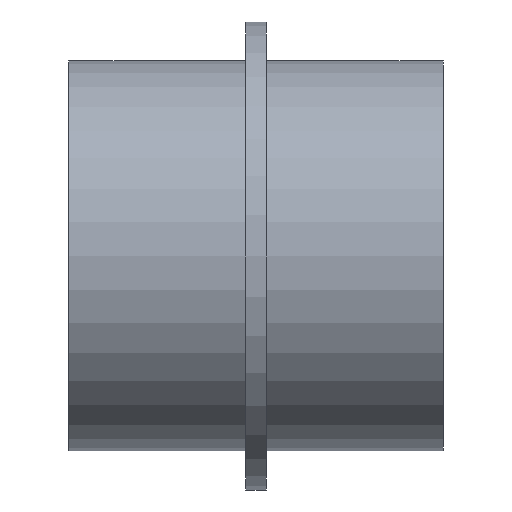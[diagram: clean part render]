
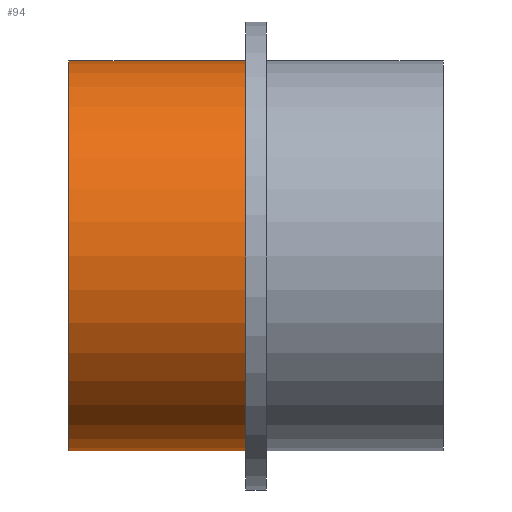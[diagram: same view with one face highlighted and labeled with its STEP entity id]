
A CAD part, front view. The second image highlights one B-rep face of the part: STEP entity #94.
In plain terms, the highlighted cylindrical face has radius 37.5 mm (diameter 75 mm), a full revolution.
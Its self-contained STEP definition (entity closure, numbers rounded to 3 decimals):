
#18=FACE_BOUND($,#35,.T.);
#28=FACE_OUTER_BOUND($,#34,.T.);
#34=EDGE_LOOP($,(#74));
#35=EDGE_LOOP($,(#75));
#50=CIRCLE($,#106,37.5);
#51=CIRCLE($,#107,37.5);
#58=VERTEX_POINT($,#157);
#59=VERTEX_POINT($,#159);
#66=EDGE_CURVE($,#58,#58,#50,.T.);
#67=EDGE_CURVE($,#59,#59,#51,.T.);
#74=ORIENTED_EDGE($,*,*,#66,.F.);
#75=ORIENTED_EDGE($,*,*,#67,.T.);
#90=CYLINDRICAL_SURFACE($,#105,37.5);
#94=ADVANCED_FACE($,(#28,#18),#90,.T.);
#105=AXIS2_PLACEMENT_3D($,#156,#123,#124);
#106=AXIS2_PLACEMENT_3D($,#158,#125,#126);
#107=AXIS2_PLACEMENT_3D($,#160,#127,#128);
#123=DIRECTION('center_axis',(1.,0.,0.));
#124=DIRECTION('ref_axis',(0.,1.,0.));
#125=DIRECTION('center_axis',(1.,0.,0.));
#126=DIRECTION('ref_axis',(0.,1.,0.));
#127=DIRECTION('center_axis',(1.,0.,0.));
#128=DIRECTION('ref_axis',(0.,1.,0.));
#156=CARTESIAN_POINT('Origin',(17.,0.,0.));
#157=CARTESIAN_POINT('',(34.,37.5,0.));
#158=CARTESIAN_POINT('Origin',(34.,0.,0.));
#159=CARTESIAN_POINT('',(0.,37.5,0.));
#160=CARTESIAN_POINT('Origin',(0.,0.,
0.));
